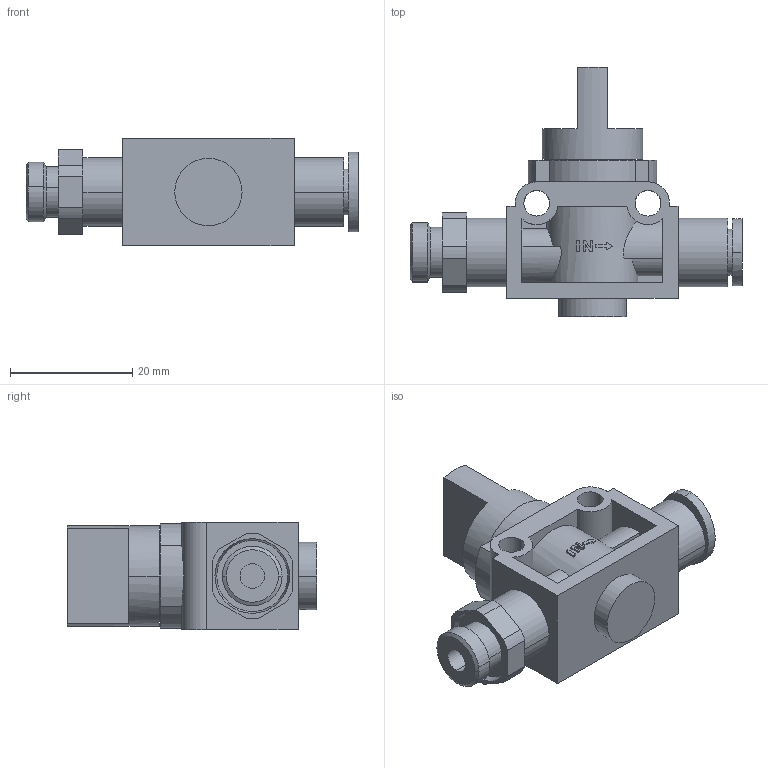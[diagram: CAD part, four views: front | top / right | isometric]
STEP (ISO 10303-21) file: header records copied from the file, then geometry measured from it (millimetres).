
FILE_DESCRIPTION((''),'2;1');
FILE_NAME('R412005470','2023-03-21T14:16:06',('GND7HC'),(''),'CREO PARAMETRIC BY PTC INC, 2020044','CREO PARAMETRIC BY PTC INC, 2020044','');
FILE_SCHEMA(('CONFIG_CONTROL_DESIGN','SHAPE_APPEARANCE_LAYERS_GROUPS'));
Length unit declared in the file: millimetre
Products named in the file (1): R412005470
Bounding box: 54.25 x 40.7 x 17.6 mm (x, y, z)
Volume: 11634 mm3; surface area: 7027.5 mm2
Topology: 1 solids, 1 shells, 233 faces, 626 edges, 420 vertices
Faces by surface type: plane 165, cylinder 60, cone 6, extrusion 2
Entity records: 9872 total; most frequent: CARTESIAN_POINT 1862, ORIENTED_EDGE 1252, DIRECTION 1208, PRESENTATION_STYLE_ASSIGNMENT 637, STYLED_ITEM 627, CURVE_STYLE 626, EDGE_CURVE 626, VECTOR 430
